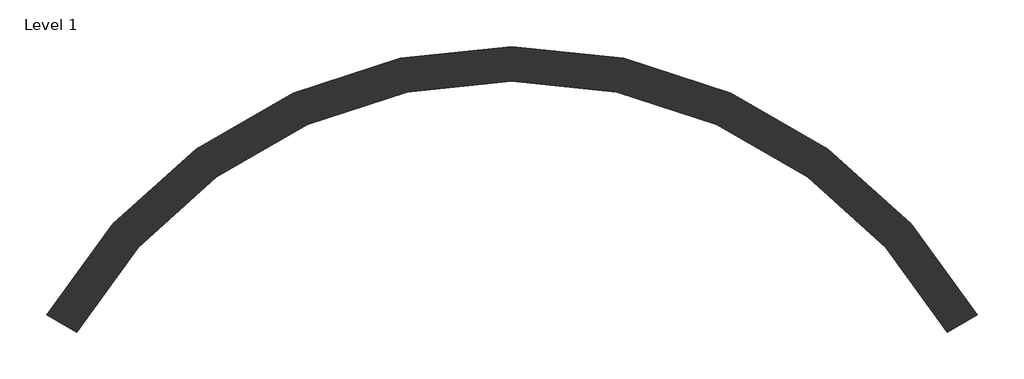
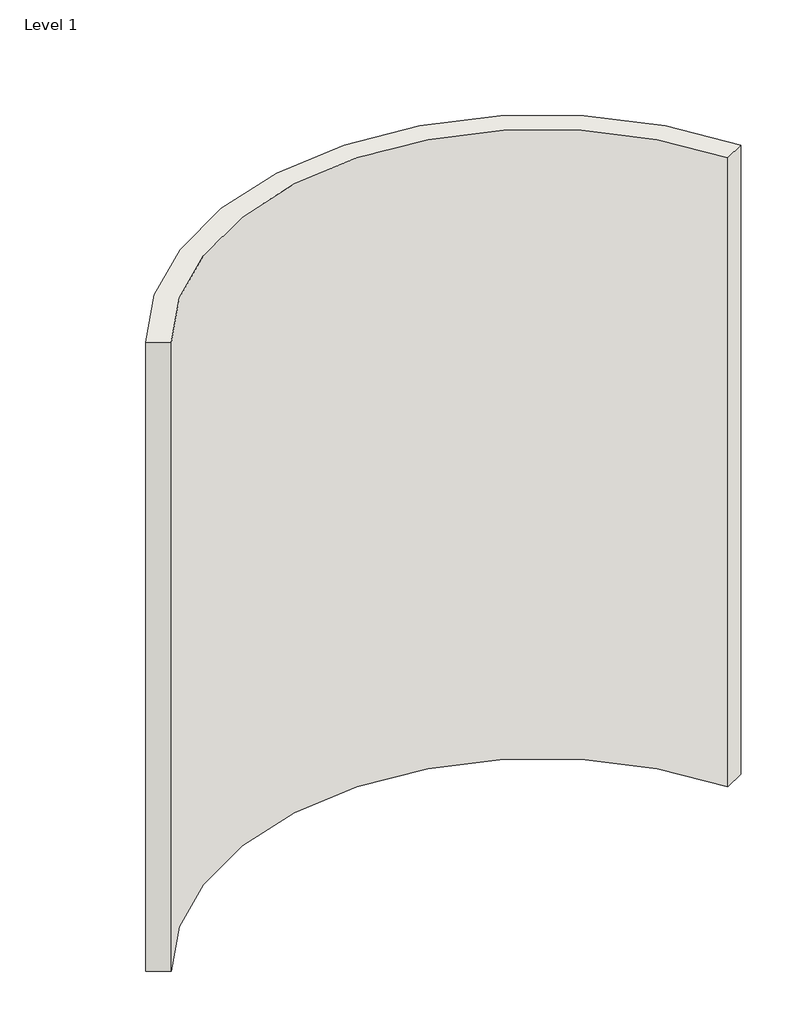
# One storey: 1 wall.
"""IFC4 building model written with IfcOpenShell, lengths in millimetres."""

import ifcopenshell
import ifcopenshell.guid

model = None  # the IFC model being written
_history = None  # IfcOwnerHistory: only IFC2X3 demands one
_inside = {}  # id of a spatial element -> (the spatial element, [elements in it])
_under = {}  # id of a project, library or spatial element -> (it, [spatial elements below it])
_declared = {}  # id of a project -> (the project, [libraries it declares])
_typed = {}  # id of a type object -> (the type object, [elements of that type])
_made_of = {}  # id of a material, layer set ... -> (it, [elements and type objects made of it])


def new_model(schema):
    """Start an empty IFC model of exactly this schema.

    Asked for "IFC4X3", IfcOpenShell would pick the latest addendum, in which some entities
    have other attributes; the version numbers below select the first issue.
    IFC2X3 requires an IfcOwnerHistory on every rooted entity: one is made here for all.
    """
    global model, _history
    if schema == "IFC4X3":
        model = ifcopenshell.file(schema_version=(4, 3, 0, 0))
    else:
        model = ifcopenshell.file(schema=schema)
    _inside.clear()
    _under.clear()
    _declared.clear()
    _typed.clear()
    _made_of.clear()
    _history = None
    if model.schema == "IFC2X3":
        org = make("IfcOrganization", Name="unknown")
        user = make(
            "IfcPersonAndOrganization",
            ThePerson=make("IfcPerson", FamilyName="unknown"),
            TheOrganization=org,
        )
        app = make(
            "IfcApplication",
            ApplicationDeveloper=org,
            Version="unknown",
            ApplicationFullName="unknown",
            ApplicationIdentifier="unknown",
        )
        _history = make(
            "IfcOwnerHistory",
            OwningUser=user,
            OwningApplication=app,
            ChangeAction="ADDED",
            CreationDate=0,
        )
    return model


def make(cls, **values):
    """One entity of the class cls with the attributes given. An attribute that is None is left unset."""
    return model.create_entity(
        cls, **{name: value for name, value in values.items() if value is not None}
    )


def rooted(cls, **values):
    """An entity with a GlobalId (a new one), such as an element, a storey or a relation."""
    return make(cls, GlobalId=ifcopenshell.guid.new(), OwnerHistory=_history, **values)


def si_unit(unit_type, name, prefix=None):
    """IfcSIUnit, for example si_unit("LENGTHUNIT", "METRE", prefix="MILLI")."""
    return make("IfcSIUnit", UnitType=unit_type, Prefix=prefix, Name=name)


def assignment(units):
    """IfcUnitAssignment: the units of a project."""
    return None if units is None else make("IfcUnitAssignment", Units=units)


def point(xyz):
    """IfcCartesianPoint."""
    return None if xyz is None else make("IfcCartesianPoint", Coordinates=xyz)


def direction(xyz):
    """IfcDirection."""
    return None if xyz is None else make("IfcDirection", DirectionRatios=xyz)


def frame(location, z_axis=None, x_axis=None):
    """IfcAxis2Placement3D, a coordinate frame: its origin and axes. An axis left out is left unset."""
    return make(
        "IfcAxis2Placement3D",
        Location=point(location),
        Axis=direction(z_axis),
        RefDirection=direction(x_axis),
    )


def frame_2d(location, x_axis=None):
    """IfcAxis2Placement2D, a coordinate frame in the plane: its origin and x axis."""
    return make(
        "IfcAxis2Placement2D", Location=point(location), RefDirection=direction(x_axis)
    )


def origin():
    """The frame at (0, 0, 0) with its axes left unset."""
    return frame((0.0, 0.0, 0.0))


def origin_with_axes():
    """The frame at (0, 0, 0) with the z axis (0, 0, 1) and the x axis (1, 0, 0) written out."""
    return frame((0.0, 0.0, 0.0), z_axis=(0.0, 0.0, 1.0), x_axis=(1.0, 0.0, 0.0))


def place(relative_to, where):
    """IfcLocalPlacement: puts the frame where relative to a parent placement (None: the world)."""
    return make(
        "IfcLocalPlacement", PlacementRelTo=relative_to, RelativePlacement=where
    )


def context(
    kind, dimensions, precision=None, world=None, true_north=None, identifier=None
):
    """IfcGeometricRepresentationContext, for example the 3D "Model" context."""
    return make(
        "IfcGeometricRepresentationContext",
        ContextIdentifier=identifier,
        ContextType=kind,
        CoordinateSpaceDimension=dimensions,
        Precision=precision,
        WorldCoordinateSystem=world,
        TrueNorth=true_north,
    )


def project(units=None, contexts=None):
    """IfcProject with its units and contexts."""
    return rooted(
        "IfcProject",
        Name="project",
        RepresentationContexts=contexts,
        UnitsInContext=assignment(units),
    )


def spatial(cls, under=None, at=None, **own):
    """A site, building, storey or space (cls), placed at a placement, below another one or the project."""
    s = rooted(cls, ObjectPlacement=at, **own)
    if under is not None:
        _under.setdefault(under.id(), (under, []))[1].append(s)
    return s


def polyline(points):
    """IfcPolyline through the points."""
    return make("IfcPolyline", Points=[point(p) for p in points])


def circle_curve(where, radius):
    """IfcCircle in the frame where."""
    return make("IfcCircle", Position=where, Radius=radius)


def trimmed(basis, trim1, trim2, sense, master):
    """IfcTrimmedCurve: the piece of a basis curve between two trims."""
    return make(
        "IfcTrimmedCurve",
        BasisCurve=basis,
        Trim1=trim1,
        Trim2=trim2,
        SenseAgreement=sense,
        MasterRepresentation=master,
    )


def segment(curve, same_sense, transition):
    """IfcCompositeCurveSegment."""
    return make(
        "IfcCompositeCurveSegment",
        Transition=transition,
        SameSense=same_sense,
        ParentCurve=curve,
    )


def composite_curve(segments, self_intersect=None):
    """IfcCompositeCurve: segments joined end to end."""
    return make("IfcCompositeCurve", Segments=segments, SelfIntersect=self_intersect)


def outline(outer, holes=None, kind="AREA"):
    """IfcArbitraryClosedProfileDef: a profile drawn as a closed curve; with holes, ...WithVoids."""
    if holes is None:
        return make("IfcArbitraryClosedProfileDef", ProfileType=kind, OuterCurve=outer)
    return make(
        "IfcArbitraryProfileDefWithVoids",
        ProfileType=kind,
        OuterCurve=outer,
        InnerCurves=holes,
    )


def extrude(swept, where, along, depth):
    """IfcExtrudedAreaSolid: the profile swept, set in the frame where, extruded along a direction by depth."""
    return make(
        "IfcExtrudedAreaSolid",
        SweptArea=swept,
        Position=where,
        ExtrudedDirection=direction(along),
        Depth=depth,
    )


def shape(context_of_items, identifier, shape_type, items):
    """IfcShapeRepresentation: the items that make up one representation, for example the "Body"."""
    return make(
        "IfcShapeRepresentation",
        ContextOfItems=context_of_items,
        RepresentationIdentifier=identifier,
        RepresentationType=shape_type,
        Items=items,
    )


def made_of(thing, what):
    """Note that an element or type object is made of a material, layer set ...; save() writes the relation."""
    if what is not None:
        _made_of.setdefault(what.id(), (what, []))[1].append(thing)
    return thing


def element(
    cls,
    number,
    at=None,
    inside=None,
    cuts=None,
    type_object=None,
    material=None,
    context=None,
    identifier="Body",
    shape_type=None,
    held_by="IfcProductDefinitionShape",
    body=None,
    shapes=None,
    **own,
):
    """One element of the class cls, such as IfcWall. Its Tag is "e" and its number.

    at: its placement. inside: the storey or other place that contains it. cuts: it is an
    opening in that element (IfcRelVoidsElement). A single representation is given by context,
    identifier, shape_type and body (its items); several are given by shapes. held_by: the class
    of the entity that holds the representations. save() writes the other relations.
    """
    e = rooted(cls, Tag="e%d" % number, ObjectPlacement=at, **own)
    if body is not None:
        shapes = [shape(context, identifier, shape_type, body)]
    if shapes is not None:
        e.Representation = make(held_by, Representations=shapes)
    if inside is not None:
        _inside.setdefault(inside.id(), (inside, []))[1].append(e)
    if cuts is not None:
        rooted(
            "IfcRelVoidsElement", RelatingBuildingElement=cuts, RelatedOpeningElement=e
        )
    if type_object is not None:
        _typed.setdefault(type_object.id(), (type_object, []))[1].append(e)
    return made_of(e, material)


def aggregate(whole, parts):
    """IfcRelAggregates: a whole, such as a stair, and the parts it consists of."""
    return rooted("IfcRelAggregates", RelatingObject=whole, RelatedObjects=parts)


def save(model, path):
    """Write the relations noted so far, then the file.

    IfcRelAggregates (storeys below a building ...), IfcRelContainedInSpatialStructure (elements
    in a storey), IfcRelDefinesByType, IfcRelAssociatesMaterial and IfcRelDeclares: one each for
    every whole, place, type object, material and project.
    """
    for whole, parts in _under.values():
        aggregate(whole, parts)
    for where, things in _inside.values():
        rooted(
            "IfcRelContainedInSpatialStructure",
            RelatedElements=things,
            RelatingStructure=where,
        )
    for kind, things in _typed.values():
        rooted("IfcRelDefinesByType", RelatedObjects=things, RelatingType=kind)
    for what, things in _made_of.values():
        rooted("IfcRelAssociatesMaterial", RelatedObjects=things, RelatingMaterial=what)
    for by, libraries in _declared.values():
        rooted("IfcRelDeclares", RelatingContext=by, RelatedDefinitions=libraries)
    model.write(path)


model = new_model("IFC4")

# Units and contexts
model_context = context("Model", 3, world=origin())
ifc_project = project(units=[si_unit("LENGTHUNIT", "METRE", prefix="MILLI")], contexts=[model_context])

# Site, building, storey
site = spatial("IfcSite", under=ifc_project)
building = spatial("IfcBuilding", under=site)
storey = spatial("IfcBuildingStorey", under=building, Name="Level 1", Elevation=0.0)

# Wall
placement = place(None, origin())
element("IfcWall", 1, ObjectType="Generic - 8\"", at=placement, inside=storey, context=model_context, shape_type="SweptSolid", body=[
    extrude(outline(composite_curve([segment(polyline([(-2828.6059835, -397.1655433), (-3004.5823456, -295.5655433)]), True, "CONTINUOUS"), segment(trimmed(circle_curve(frame_2d((-276.9487338, -1870.3655433)), 3149.6), [point((-3004.5823456, -295.5655433))], [point((2450.6848779, -295.5655433))], False, "CARTESIAN"), True, "CONTINUOUS"), segment(polyline([(2450.6848779, -295.5655433), (2274.7085159, -397.1655433)]), True, "CONTINUOUS"), segment(trimmed(circle_curve(frame_2d((-276.9487338, -1870.3655433)), 2946.4), [point((2274.7085159, -397.1655433))], [point((-2828.6059835, -397.1655433))], True, "CARTESIAN"), True, "CONTINUOUS")], self_intersect=False)), origin_with_axes(), (0.0, 0.0, 1.0), 6096.0),
])

save(model, "model.ifc")
